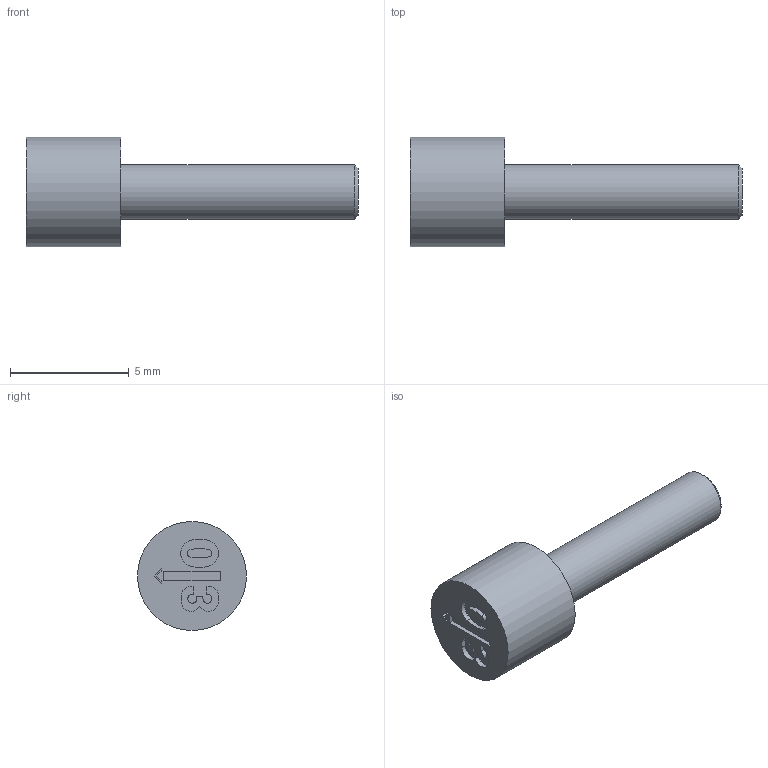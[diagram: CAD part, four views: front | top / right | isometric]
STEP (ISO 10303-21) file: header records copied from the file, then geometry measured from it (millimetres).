
FILE_DESCRIPTION( ( 'STEP AP203' ), ' ' );
FILE_NAME( 'p:/temp/worker_137/2260_1376/app_77_12017012509012410014404260eae72_000000_00_00_000000/format_0/YAS 08.stp', '2017-01-25T08:01:24', ( '' ), ( '' ), ' ', 'PARTsolutions', ' ' );
FILE_SCHEMA( ( 'CONFIG_CONTROL_DESIGN' ) );
Length unit declared in the file: millimetre
Products named in the file (1): _YAS 081
Bounding box: 14 x 4.6 x 4.6 mm (x, y, z)
Volume: 107.3 mm3; surface area: 167.2 mm2
Topology: 1 solids, 1 shells, 46 faces, 113 edges, 75 vertices
Faces by surface type: plane 29, cylinder 16, cone 1
Full cylindrical faces by diameter (mm): 2.3 x1, 4.6 x1
Entity records: 1391 total; most frequent: DIRECTION 237, CARTESIAN_POINT 232, ORIENTED_EDGE 220, EDGE_CURVE 110, AXIS2_PLACEMENT_3D 80, LINE 77, VECTOR 77, VERTEX_POINT 75
